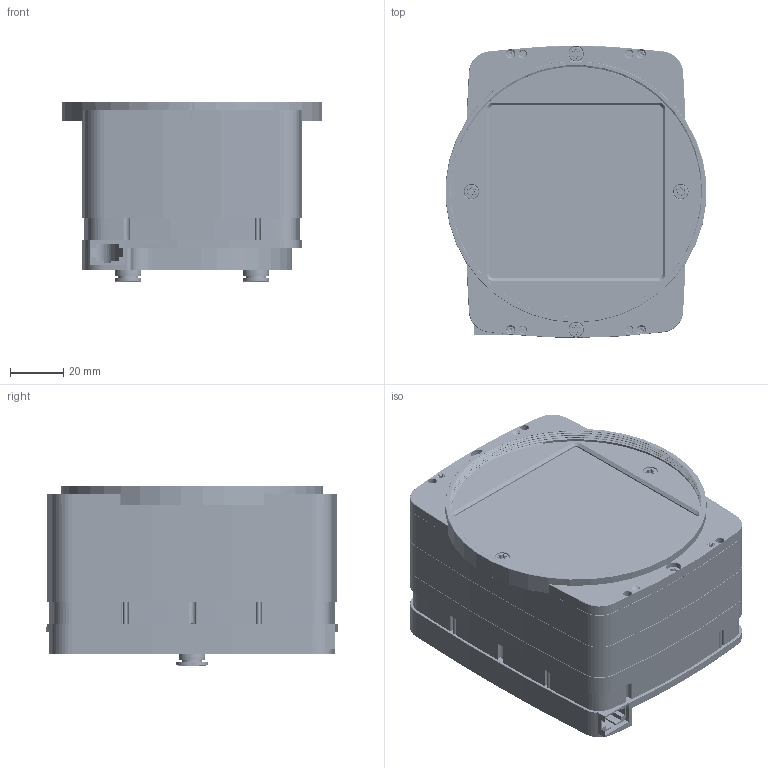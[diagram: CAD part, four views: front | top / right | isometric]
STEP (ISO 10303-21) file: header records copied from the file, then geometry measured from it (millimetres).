
FILE_DESCRIPTION(/* description */ (''),/* implementation_level */ '2;1');
FILE_NAME(/* name */ 'STP-MX-(MX377MG-GP-X4G3-MTP)-LIQ-REV2.stp',/* time_stamp */ '2019-09-02T13:40:57+02:00',/* author */ (''),/* organization */ (''),/* preprocessor_version */ 'ST-DEVELOPER v16',/* originating_system */ 'SIEMENS PLM Software NX 11.0',/* authorisation */ '');
FILE_SCHEMA (('AUTOMOTIVE_DESIGN { 1 0 10303 214 3 1 1 1 }'));
Products named in the file (20): SCREW-M1.6X20-TX; HR25-9TR-12SA; FSCOM-12072; BINDER-0933918104; 153306_QSM_M5_6; FXV; FPM-L; FXM-L-REV2; SCREW-M1.6X8-TX; peltier-16.8x16.8x3.29; HD-REV2; SCREW-M3X6-TX; GESENSE6060; RUBBER; FHX; FLT-GLASS-71.8x71.8x3.6; FH-REV2; FM95-REV2; 00_ASSEMBLY-FAN-L; 00_ASSEBMLY-MX377
Assembly tree (48 placements, depth 3):
  00_ASSEBMLY-MX377
    FM95-REV2
    FH-REV2
    FLT-GLASS-71.8x71.8x3.6
    FHX
    RUBBER  x4
    GESENSE6060
    SCREW-M3X6-TX  x4
    HD-REV2
    peltier-16.8x16.8x3.29  x2
    00_ASSEMBLY-FAN-L
      FXM-L-REV2
      FPM-L
      FXV
      153306_QSM_M5_6  x2
      BINDER-0933918104
      FSCOM-12072
      HR25-9TR-12SA
      SCREW-M1.6X20-TX  x9
      SCREW-M1.6X8-TX  x2
    SCREW-M1.6X8-TX  x12
Bounding box: 97.82 x 109.48 x 67.91 mm (x, y, z)
Volume: 245228.6 mm3; surface area: 189218.1 mm2
Topology: 297 solids, 300 shells, 4644 faces, 10476 edges, 6846 vertices
Faces by surface type: plane 1928, cylinder 1708, cone 765, bspline 178, sphere 42, torus 23
Full cylindrical faces by diameter (mm): 0.4 x5, 0.46 x250, 0.6 x4, 0.8 x1, 1 x4, 1.05 x10, 1.3 x29, 1.6 x82, 1.78 x249, 2 x5, 2.1 x2, 2.5 x144, 2.8 x4, 2.9 x1, 2.95 x23, 3 x8, 3.2 x37, 3.6 x4, 4.1 x2, 5 x2, 5.5 x4, 5.6 x5, 5.8 x1, 6 x2, 6.5 x3, 6.9 x1, 7.4 x2, 8 x7, 9.8 x2, 10 x8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
Entity records: 296832 total; most frequent: CARTESIAN_POINT 213215, DIRECTION 17320, ORIENTED_EDGE 14646, EDGE_CURVE 7323, AXIS2_PLACEMENT_3D 7217, EDGE_LOOP 5423, VERTEX_POINT 5286, ADVANCED_FACE 3881
